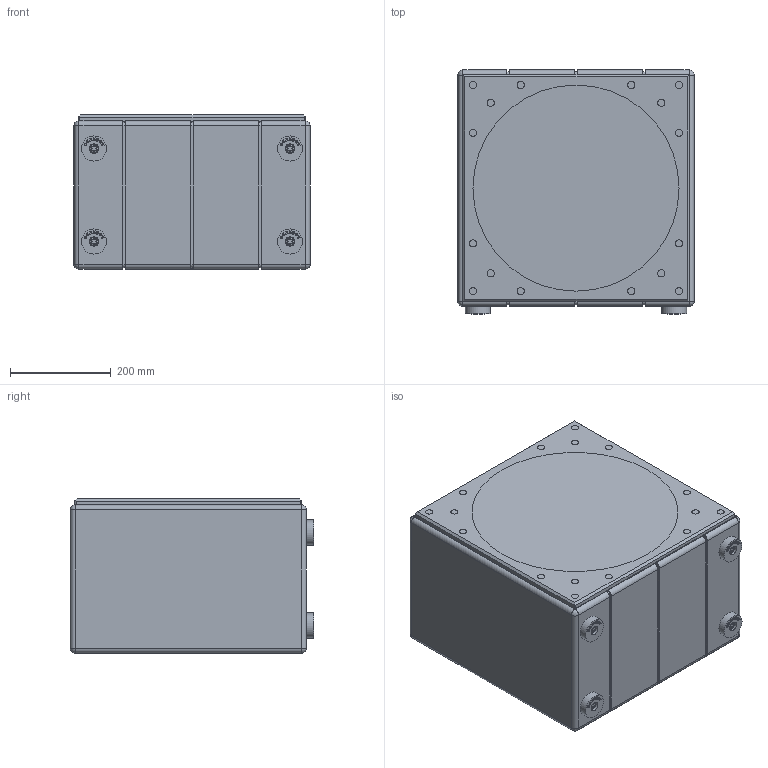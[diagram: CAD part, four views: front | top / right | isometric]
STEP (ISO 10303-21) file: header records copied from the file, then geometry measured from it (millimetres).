
FILE_DESCRIPTION(/* description */ ('','CAx-IF Rec.Pracs.---Representation and Presentation of Product Manufacturing Information (PMI)---4.0---2014-10-13'),/* implementation_level */ '2;1');
FILE_NAME(/* name */ '3D_THE16 SUB PRO PASSIVE SEALED SHALLOW_Public_SI.step',/* time_stamp */ '2025-01-28T19:20:57+01:00',/* author */ (''),/* organization */ (''),/* preprocessor_version */ 'ST-DEVELOPER v20',/* originating_system */ 'Autodesk Translation Framework v13.20.0.188',/* authorisation */ '');
FILE_SCHEMA (('AP242_MANAGED_MODEL_BASED_3D_ENGINEERING_MIM_LF { 1 0 10303 442 1 1 4 }'));
Products named in the file (3): ASCENDO_16INCH_SUB_V2_ASM; ENCLOSURE_0606_1_V2; _1_V200_ASM
Assembly tree (2 placements, depth 2):
  ASCENDO_16INCH_SUB_V2_ASM
    ENCLOSURE_0606_1_V2
    _1_V200_ASM
Bounding box: 470 x 485 x 307 mm (x, y, z)
Volume: 61074190 mm3; surface area: 1639623.3 mm2
Topology: 2 solids, 42 shells, 2633 faces, 6337 edges, 3970 vertices
Faces by surface type: plane 1133, bspline 891, cylinder 497, cone 72, torus 27, sphere 13
Full cylindrical faces by diameter (mm): 2.9 x36, 3.5 x4, 4 x16, 6.8 x12, 7.3 x4, 14.3 x16, 16 x4, 19 x4, 50 x4, 179 x1, 180 x1, 378 x1, 390 x1
Entity records: 130715 total; most frequent: CARTESIAN_POINT 73580, ORIENTED_EDGE 12672, DIRECTION 10157, EDGE_CURVE 6336, VERTEX_POINT 3970, LINE 3409, VECTOR 3409, AXIS2_PLACEMENT_3D 3374
